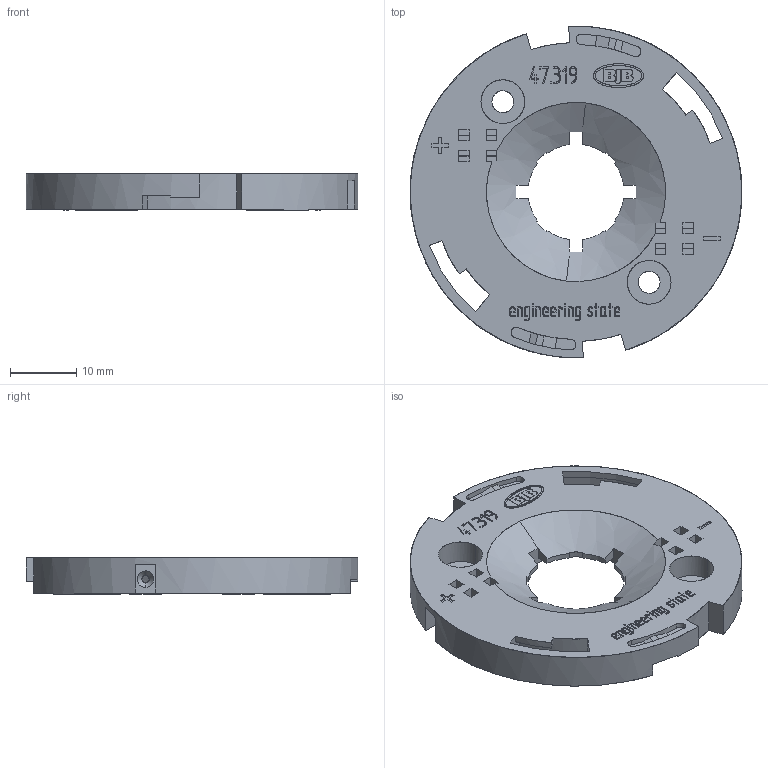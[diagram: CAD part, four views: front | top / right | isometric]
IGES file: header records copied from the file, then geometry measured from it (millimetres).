
Global section: file name: C:\coretechnologie2013\3D-in/01TYA41Y03.igs; native system: CT CoreTechnologie 3D Evolution; preprocessor: 2006; author: assmuth; date: 1150223.134811; units: millimetre
Bounding box: 49.99 x 49.95 x 5.55 mm (x, y, z)
Surface area: 7633.3 mm2 (no closed solid volume)
Topology: 0 solids, 0 shells, 703 faces, 3850 edges, 3850 vertices
Faces by surface type: bspline 703
